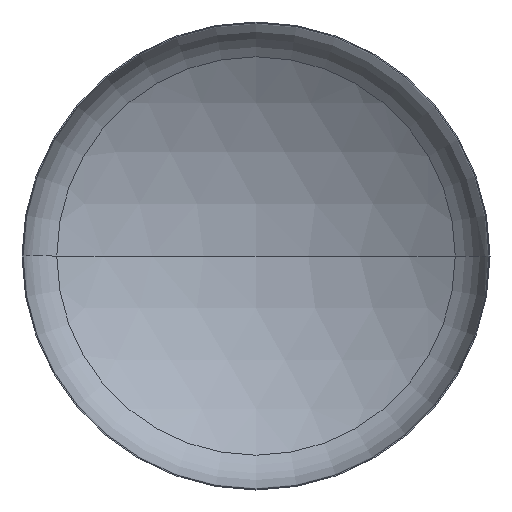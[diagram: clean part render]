
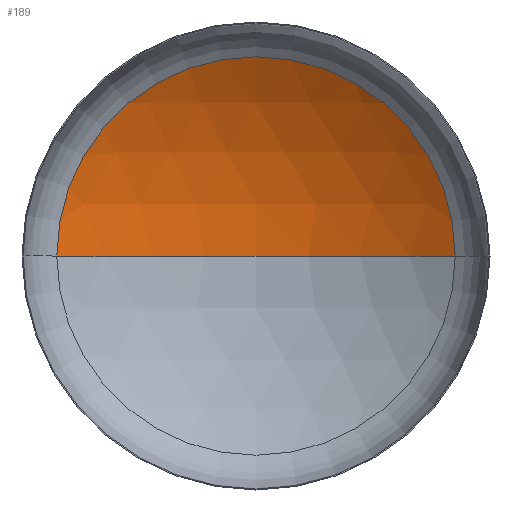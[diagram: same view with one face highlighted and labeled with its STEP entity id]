
A CAD part, front view. The second image highlights one B-rep face of the part: STEP entity #189.
In plain terms, the highlighted spherical face has radius 2720 mm.
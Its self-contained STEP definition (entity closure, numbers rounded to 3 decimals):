
#1 = AXIS2_PLACEMENT_3D ( 'NONE', #400, #112, #343 ) ;
#2 = AXIS2_PLACEMENT_3D ( 'NONE', #163, #314, #317 ) ;
#9 = DIRECTION ( 'NONE',  ( 1., 0., 0. ) ) ;
#16 = CARTESIAN_POINT ( 'NONE',  ( 0., 886.56, 0. ) ) ;
#30 = AXIS2_PLACEMENT_3D ( 'NONE', #218, #320, #216 ) ;
#35 = AXIS2_PLACEMENT_3D ( 'NONE', #89, #246, #9 ) ;
#80 = CARTESIAN_POINT ( 'NONE',  ( 1447.362, 469.502, 0. ) ) ;
#85 = CIRCLE ( 'NONE', #35, 1447.362 ) ;
#89 = CARTESIAN_POINT ( 'NONE',  ( 0., 469.502, 0. ) ) ;
#97 = EDGE_CURVE ( 'NONE', #390, #312, #85, .T. ) ;
#112 = DIRECTION ( 'NONE',  ( 0., 0., 1. ) ) ;
#163 = CARTESIAN_POINT ( 'NONE',  ( 0., -1833.44, 0. ) ) ;
#166 = FACE_OUTER_BOUND ( 'NONE', #225, .T. ) ;
#177 = ORIENTED_EDGE ( 'NONE', *, *, #322, .F. ) ;
#189 = ADVANCED_FACE ( 'NONE', ( #166 ), #234, .F. ) ;
#199 = CIRCLE ( 'NONE', #1, 2720. ) ;
#216 = DIRECTION ( 'NONE',  ( -1., 0., 0. ) ) ;
#218 = CARTESIAN_POINT ( 'NONE',  ( 0., -1833.44, 0. ) ) ;
#225 = EDGE_LOOP ( 'NONE', ( #177, #298, #288 ) ) ;
#234 = SPHERICAL_SURFACE ( 'NONE', #30, 2720. ) ;
#246 = DIRECTION ( 'NONE',  ( 0., -1., 0. ) ) ;
#268 = VERTEX_POINT ( 'NONE', #16 ) ;
#288 = ORIENTED_EDGE ( 'NONE', *, *, #97, .T. ) ;
#298 = ORIENTED_EDGE ( 'NONE', *, *, #319, .T. ) ;
#312 = VERTEX_POINT ( 'NONE', #394 ) ;
#314 = DIRECTION ( 'NONE',  ( 0., 0., -1. ) ) ;
#317 = DIRECTION ( 'NONE',  ( -1., 0., 0. ) ) ;
#319 = EDGE_CURVE ( 'NONE', #268, #390, #362, .T. ) ;
#320 = DIRECTION ( 'NONE',  ( 0., 0., -1. ) ) ;
#322 = EDGE_CURVE ( 'NONE', #268, #312, #199, .T. ) ;
#343 = DIRECTION ( 'NONE',  ( 1., 0., 0. ) ) ;
#362 = CIRCLE ( 'NONE', #2, 2720. ) ;
#390 = VERTEX_POINT ( 'NONE', #80 ) ;
#394 = CARTESIAN_POINT ( 'NONE',  ( -1447.362, 469.502, 0. ) ) ;
#400 = CARTESIAN_POINT ( 'NONE',  ( 0., -1833.44, 0. ) ) ;
